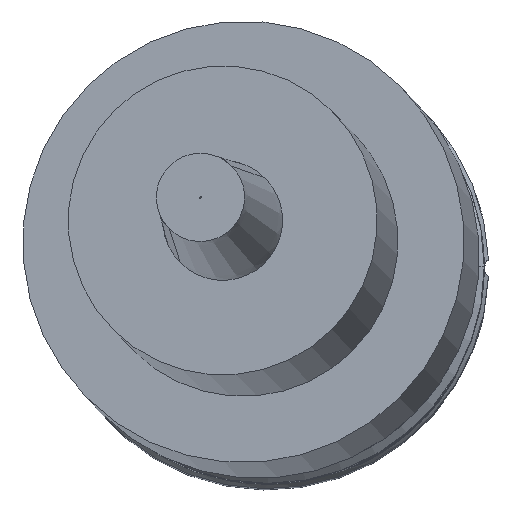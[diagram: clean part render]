
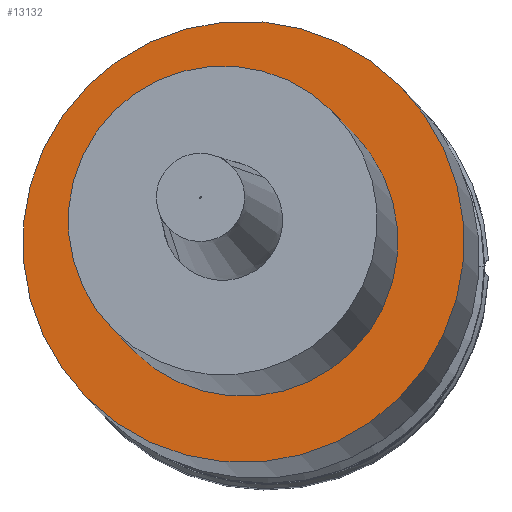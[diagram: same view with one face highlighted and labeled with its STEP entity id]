
A CAD part, top view. The second image highlights one B-rep face of the part: STEP entity #13132.
In plain terms, the highlighted planar face has unit normal (-0.049, 0.049, 0.998).
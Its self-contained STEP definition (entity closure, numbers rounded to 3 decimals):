
#581 = DIRECTION ( 'NONE',  ( 0.049, -0.049, -0.998 ) ) ;
#1231 = EDGE_CURVE ( 'NONE', #21103, #16115, #3008, .T. ) ;
#1305 = DIRECTION ( 'NONE',  ( 0.049, -0.049, -0.998 ) ) ;
#2060 = CARTESIAN_POINT ( 'NONE',  ( -3.017, 3.017, 21.435 ) ) ;
#2080 = EDGE_LOOP ( 'NONE', ( #4767, #22526 ) ) ;
#2244 = VERTEX_POINT ( 'NONE', #16800 ) ;
#2754 = DIRECTION ( 'NONE',  ( -0.707, -0.707, 0. ) ) ;
#3008 = CIRCLE ( 'NONE', #7786, 3.5 ) ;
#3639 = FACE_OUTER_BOUND ( 'NONE', #17243, .T. ) ;
#4229 = DIRECTION ( 'NONE',  ( -0.707, -0.707, 0. ) ) ;
#4767 = ORIENTED_EDGE ( 'NONE', *, *, #1231, .T. ) ;
#5025 = VERTEX_POINT ( 'NONE', #11175 ) ;
#6435 = AXIS2_PLACEMENT_3D ( 'NONE', #14616, #1305, #10522 ) ;
#6602 = EDGE_CURVE ( 'NONE', #2244, #5025, #9960, .T. ) ;
#7508 = CARTESIAN_POINT ( 'NONE',  ( -0.548, 0.548, 21.679 ) ) ;
#7786 = AXIS2_PLACEMENT_3D ( 'NONE', #12302, #21539, #2754 ) ;
#7987 = CARTESIAN_POINT ( 'NONE',  ( -0.548, 0.548, 21.679 ) ) ;
#8073 = DIRECTION ( 'NONE',  ( -0.707, -0.707, 0. ) ) ;
#9424 = DIRECTION ( 'NONE',  ( 0.049, -0.049, -0.998 ) ) ;
#9772 = DIRECTION ( 'NONE',  ( 0.049, -0.049, -0.998 ) ) ;
#9960 = CIRCLE ( 'NONE', #20881, 5. ) ;
#10206 = AXIS2_PLACEMENT_3D ( 'NONE', #2060, #9772, #4229 ) ;
#10522 = DIRECTION ( 'NONE',  ( -0.707, -0.707, 0. ) ) ;
#11175 = CARTESIAN_POINT ( 'NONE',  ( -4.083, -2.988, 21.679 ) ) ;
#12302 = CARTESIAN_POINT ( 'NONE',  ( -0.548, 0.548, 21.679 ) ) ;
#13132 = ADVANCED_FACE ( 'NONE', ( #3639, #24467 ), #21185, .F. ) ;
#13481 = AXIS2_PLACEMENT_3D ( 'NONE', #7508, #9424, #20825 ) ;
#13847 = CIRCLE ( 'NONE', #13481, 3.5 ) ;
#14616 = CARTESIAN_POINT ( 'NONE',  ( -0.548, 0.548, 21.679 ) ) ;
#16115 = VERTEX_POINT ( 'NONE', #21275 ) ;
#16342 = EDGE_CURVE ( 'NONE', #5025, #2244, #20580, .T. ) ;
#16800 = CARTESIAN_POINT ( 'NONE',  ( 2.988, 4.083, 21.679 ) ) ;
#17243 = EDGE_LOOP ( 'NONE', ( #20952, #20072 ) ) ;
#19535 = EDGE_CURVE ( 'NONE', #16115, #21103, #13847, .T. ) ;
#20072 = ORIENTED_EDGE ( 'NONE', *, *, #6602, .F. ) ;
#20580 = CIRCLE ( 'NONE', #6435, 5. ) ;
#20825 = DIRECTION ( 'NONE',  ( -0.707, -0.707, 0. ) ) ;
#20881 = AXIS2_PLACEMENT_3D ( 'NONE', #7987, #581, #8073 ) ;
#20952 = ORIENTED_EDGE ( 'NONE', *, *, #16342, .F. ) ;
#21103 = VERTEX_POINT ( 'NONE', #22312 ) ;
#21185 = PLANE ( 'NONE',  #10206 ) ;
#21275 = CARTESIAN_POINT ( 'NONE',  ( 1.927, 3.023, 21.679 ) ) ;
#21539 = DIRECTION ( 'NONE',  ( 0.049, -0.049, -0.998 ) ) ;
#22312 = CARTESIAN_POINT ( 'NONE',  ( -3.023, -1.927, 21.679 ) ) ;
#22526 = ORIENTED_EDGE ( 'NONE', *, *, #19535, .T. ) ;
#24467 = FACE_BOUND ( 'NONE', #2080, .T. ) ;
